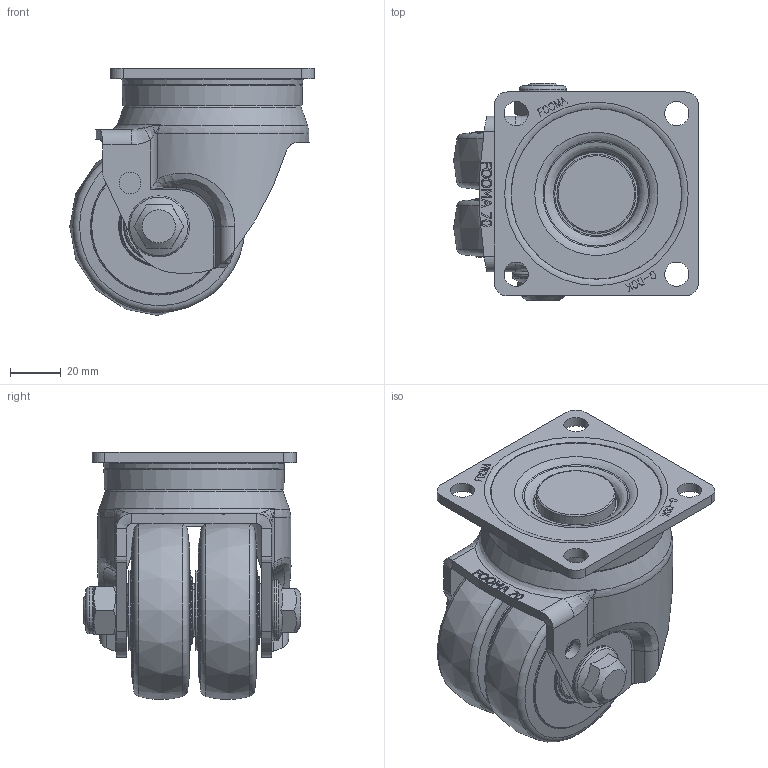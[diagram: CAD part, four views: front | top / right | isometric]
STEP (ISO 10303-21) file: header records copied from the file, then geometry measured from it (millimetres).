
FILE_DESCRIPTION(/* description */ (''),/* implementation_level */ '2;1');
FILE_NAME(/* name */ 'C:\Users\admin\Desktop\JYS\14.제품도면\JS-SERIES\3D\GAJSD-70-ASF-GUD-PJP_HP.stp',/* time_stamp */ '2023-07-25T14:00:11+09:00',/* author */ ('admin'),/* organization */ (''),/* preprocessor_version */ 'ST-DEVELOPER v18.1',/* originating_system */ 'Autodesk Inventor 2021',/* authorisation */ '');
FILE_SCHEMA (('AUTOMOTIVE_DESIGN { 1 0 10303 214 3 1 1 }'));
Length unit declared in the file: millimetre
Products named in the file (1): GAJSD-70-ASF-GUD-PJP_HP
Bounding box: 96 x 85.3 x 97 mm (x, y, z)
Volume: 298821.4 mm3; surface area: 64824.9 mm2
Topology: 1 solids, 1 shells, 624 faces, 1675 edges, 1102 vertices
Faces by surface type: plane 388, bspline 86, torus 67, cylinder 50, cone 33
Full cylindrical faces by diameter (mm): 8.5 x2, 9.5 x4, 14.9 x2, 18.5 x1, 21 x2, 24 x1, 28 x1, 31 x3, 61 x1
Entity records: 21689 total; most frequent: CARTESIAN_POINT 6305, ORIENTED_EDGE 3342, DIRECTION 2953, EDGE_CURVE 1671, VERTEX_POINT 1102, LINE 1043, VECTOR 1043, AXIS2_PLACEMENT_3D 955
